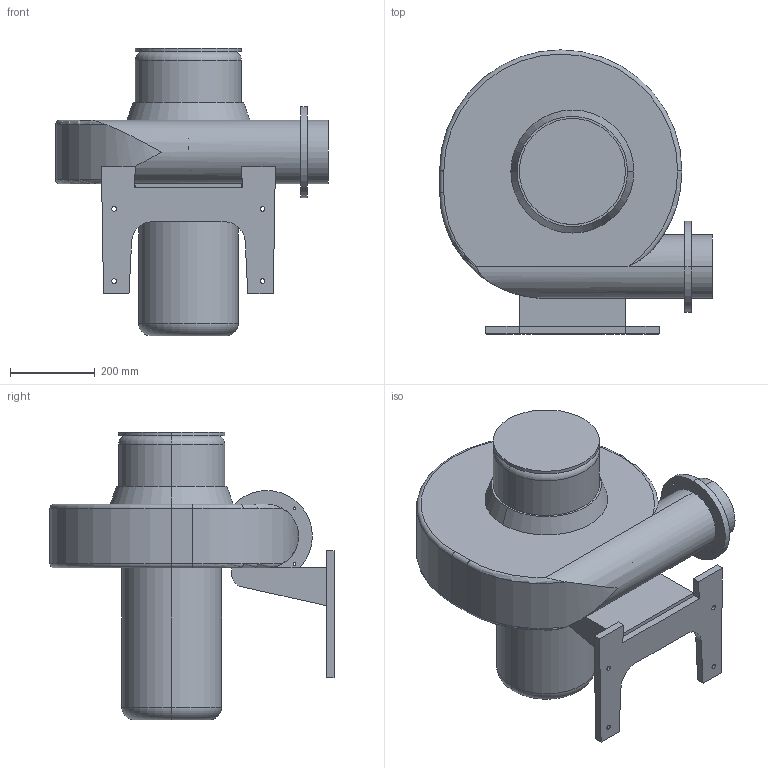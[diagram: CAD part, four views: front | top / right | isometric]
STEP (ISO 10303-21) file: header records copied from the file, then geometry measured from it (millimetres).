
FILE_DESCRIPTION (( 'STEP AP203' ), '1' );
FILE_NAME ('TB-3700.STEP', '2019-05-09T03:38:51', ( 'User' ), ( 'www.dadighost.com' ), 'SwSTEP 2.0', 'SolidWorks 2014', '' );
FILE_SCHEMA (( 'CONFIG_CONTROL_DESIGN' ));
Length unit declared in the file: millimetre
Products named in the file (1): TB-3700
Bounding box: 643 x 669.33 x 678 mm (x, y, z)
Volume: 68607660 mm3; surface area: 1664237.4 mm2
Topology: 1 solids, 1 shells, 86 faces, 214 edges, 137 vertices
Faces by surface type: cylinder 38, plane 32, torus 14, cone 2
Entity records: 3038 total; most frequent: CARTESIAN_POINT 820, DIRECTION 469, ORIENTED_EDGE 428, EDGE_CURVE 214, AXIS2_PLACEMENT_3D 184, VERTEX_POINT 137, EDGE_LOOP 109, VECTOR 101
